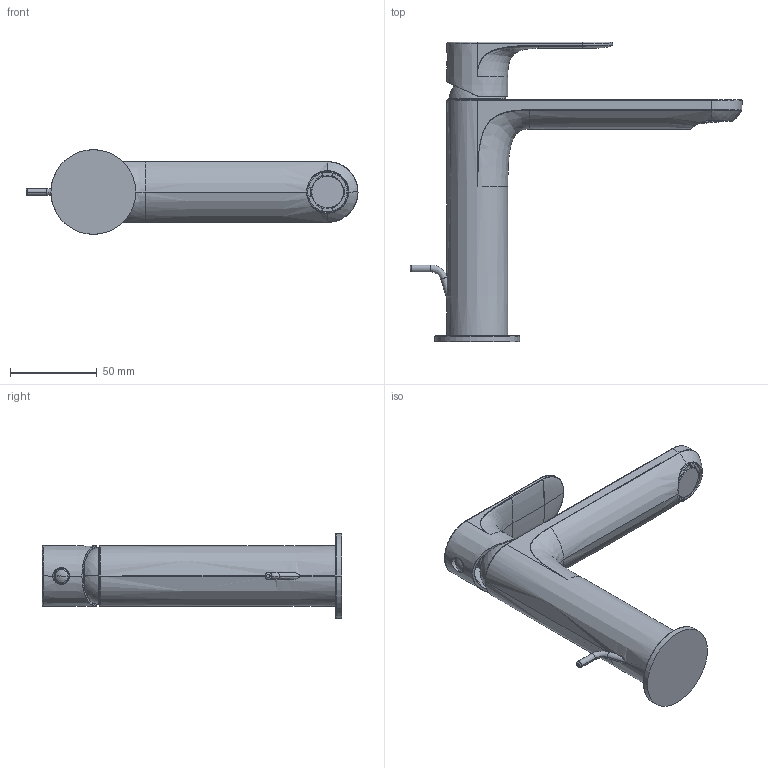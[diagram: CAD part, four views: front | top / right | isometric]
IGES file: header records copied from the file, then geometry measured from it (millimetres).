
Start section:  PTC IGES file: 64054_sw0001.igs
Global section: file name: 64054_sw0001.igs; native system: Creo Parametric by PTC Inc.; preprocessor: 2018100; author: volponeff; organization: Unknown; date: 20200604.134151; units: millimetre
Bounding box: 191.28 x 172.5 x 48.8 mm (x, y, z)
Surface area: 70504.1 mm2 (no closed solid volume)
Topology: 0 solids, 0 shells, 437 faces, 2173 edges, 2162 vertices
Faces by surface type: revolution 236, bspline 193, extrusion 8
